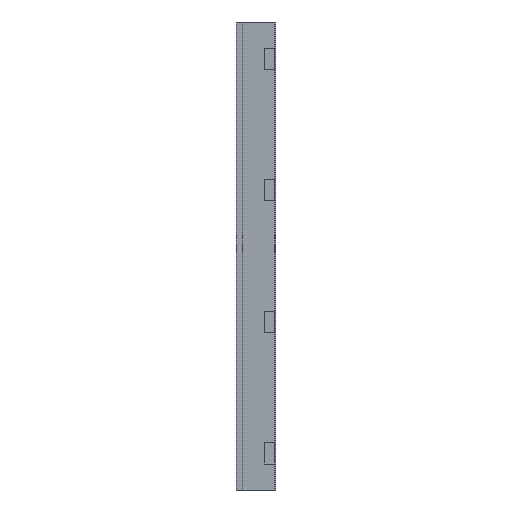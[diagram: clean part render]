
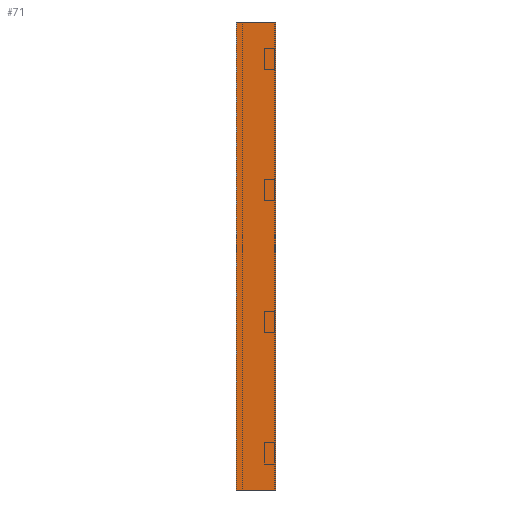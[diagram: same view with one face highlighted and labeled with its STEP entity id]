
A CAD part, left-side view. The second image highlights one B-rep face of the part: STEP entity #71.
In plain terms, the highlighted planar face has unit normal (-1, 0, 0).
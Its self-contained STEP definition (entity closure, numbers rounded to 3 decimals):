
#30 = LINE ( 'NONE', #947, #563 ) ;
#36 = LINE ( 'NONE', #1275, #740 ) ;
#71 = ADVANCED_FACE ( 'NONE', ( #1649 ), #842, .T. ) ;
#92 = CARTESIAN_POINT ( 'NONE',  ( 0., 75., -900. ) ) ;
#133 = VERTEX_POINT ( 'NONE', #519 ) ;
#180 = DIRECTION ( 'NONE',  ( 0., -1., 0. ) ) ;
#195 = ORIENTED_EDGE ( 'NONE', *, *, #1488, .F. ) ;
#325 = DIRECTION ( 'NONE',  ( -1., 0., 0. ) ) ;
#330 = EDGE_LOOP ( 'NONE', ( #195, #454, #882, #762 ) ) ;
#390 = DIRECTION ( 'NONE',  ( 0., 0., 1. ) ) ;
#404 = VECTOR ( 'NONE', #390, 1000. ) ;
#442 = VERTEX_POINT ( 'NONE', #92 ) ;
#454 = ORIENTED_EDGE ( 'NONE', *, *, #945, .F. ) ;
#475 = CARTESIAN_POINT ( 'NONE',  ( 0., 0., 0. ) ) ;
#519 = CARTESIAN_POINT ( 'NONE',  ( 0., 0., -900. ) ) ;
#563 = VECTOR ( 'NONE', #1351, 1000. ) ;
#740 = VECTOR ( 'NONE', #1674, 1000. ) ;
#755 = CARTESIAN_POINT ( 'NONE',  ( 0., 75., 0. ) ) ;
#762 = ORIENTED_EDGE ( 'NONE', *, *, #1612, .T. ) ;
#842 = PLANE ( 'NONE',  #1279 ) ;
#849 = VERTEX_POINT ( 'NONE', #475 ) ;
#882 = ORIENTED_EDGE ( 'NONE', *, *, #1440, .T. ) ;
#939 = CARTESIAN_POINT ( 'NONE',  ( 0., 0., -900. ) ) ;
#945 = EDGE_CURVE ( 'NONE', #442, #1175, #36, .T. ) ;
#947 = CARTESIAN_POINT ( 'NONE',  ( 0., 0., -900. ) ) ;
#1085 = CARTESIAN_POINT ( 'NONE',  ( 0., 0., 0. ) ) ;
#1147 = LINE ( 'NONE', #1238, #404 ) ;
#1175 = VERTEX_POINT ( 'NONE', #755 ) ;
#1238 = CARTESIAN_POINT ( 'NONE',  ( 0., 0., -900. ) ) ;
#1275 = CARTESIAN_POINT ( 'NONE',  ( 0., 75., -900. ) ) ;
#1279 = AXIS2_PLACEMENT_3D ( 'NONE', #939, #325, #1513 ) ;
#1337 = VECTOR ( 'NONE', #180, 1000. ) ;
#1351 = DIRECTION ( 'NONE',  ( 0., -1., 0. ) ) ;
#1440 = EDGE_CURVE ( 'NONE', #442, #133, #30, .T. ) ;
#1468 = LINE ( 'NONE', #1085, #1337 ) ;
#1488 = EDGE_CURVE ( 'NONE', #1175, #849, #1468, .T. ) ;
#1513 = DIRECTION ( 'NONE',  ( 0., 0., 1. ) ) ;
#1612 = EDGE_CURVE ( 'NONE', #133, #849, #1147, .T. ) ;
#1649 = FACE_OUTER_BOUND ( 'NONE', #330, .T. ) ;
#1674 = DIRECTION ( 'NONE',  ( 0., 0., 1. ) ) ;
